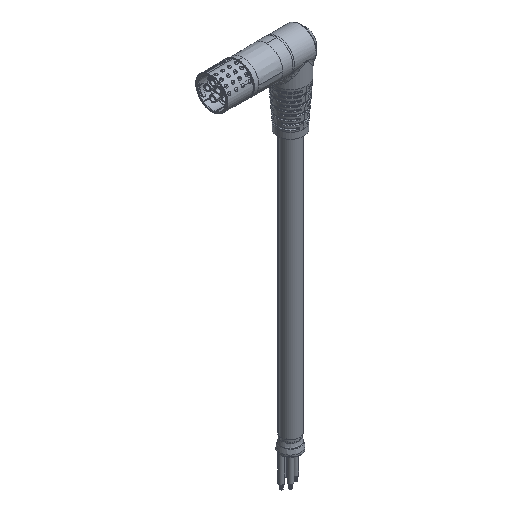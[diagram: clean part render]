
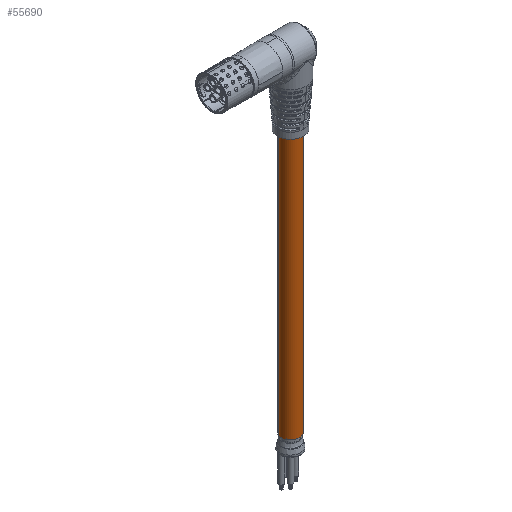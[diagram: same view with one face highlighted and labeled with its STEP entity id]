
A CAD part, isometric view. The second image highlights one B-rep face of the part: STEP entity #55690.
In plain terms, the highlighted cylindrical face has radius 6.06 mm (diameter 12.12 mm), a partial arc.
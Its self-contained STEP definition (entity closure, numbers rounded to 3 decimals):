
#1058 = AXIS2_PLACEMENT_3D ( 'NONE', #19120, #47218, #46767 ) ;
#3039 = FACE_OUTER_BOUND ( 'NONE', #30575, .T. ) ;
#5346 = ORIENTED_EDGE ( 'NONE', *, *, #19314, .T. ) ;
#8868 = DIRECTION ( 'NONE',  ( 0., 0., -1. ) ) ;
#11148 = ORIENTED_EDGE ( 'NONE', *, *, #21567, .F. ) ;
#13949 = CARTESIAN_POINT ( 'NONE',  ( -50.776, 7.922, -34.562 ) ) ;
#15374 = DIRECTION ( 'NONE',  ( 0., 0., -1. ) ) ;
#19120 = CARTESIAN_POINT ( 'NONE',  ( -45.178, 5.601, -17.422 ) ) ;
#19314 = EDGE_CURVE ( 'NONE', #69893, #69079, #37124, .T. ) ;
#20463 = CARTESIAN_POINT ( 'NONE',  ( -39.58, 3.279, -221.325 ) ) ;
#21567 = EDGE_CURVE ( 'NONE', #87808, #69079, #64613, .T. ) ;
#22295 = CARTESIAN_POINT ( 'NONE',  ( -39.58, 3.279, -34.562 ) ) ;
#30575 = EDGE_LOOP ( 'NONE', ( #33023, #5346, #11148, #68216 ) ) ;
#31117 = CYLINDRICAL_SURFACE ( 'NONE', #1058, 6.06 ) ;
#32305 = AXIS2_PLACEMENT_3D ( 'NONE', #58948, #8868, #87184 ) ;
#32390 = CARTESIAN_POINT ( 'NONE',  ( -45.178, 5.601, -34.562 ) ) ;
#33023 = ORIENTED_EDGE ( 'NONE', *, *, #52623, .T. ) ;
#37124 = LINE ( 'NONE', #64263, #86808 ) ;
#39626 = CARTESIAN_POINT ( 'NONE',  ( -50.776, 7.922, -221.325 ) ) ;
#46767 = DIRECTION ( 'NONE',  ( 0.924, -0.383, 0. ) ) ;
#47218 = DIRECTION ( 'NONE',  ( 0., 0., -1. ) ) ;
#50372 = LINE ( 'NONE', #78447, #90724 ) ;
#50424 = VERTEX_POINT ( 'NONE', #22295 ) ;
#51777 = DIRECTION ( 'NONE',  ( -0.924, 0.383, 0. ) ) ;
#52623 = EDGE_CURVE ( 'NONE', #50424, #69893, #56726, .T. ) ;
#53109 = EDGE_CURVE ( 'NONE', #50424, #87808, #50372, .T. ) ;
#55690 = ADVANCED_FACE ( 'NONE', ( #3039 ), #31117, .T. ) ;
#56726 = CIRCLE ( 'NONE', #66963, 6.06 ) ;
#58948 = CARTESIAN_POINT ( 'NONE',  ( -45.178, 5.601, -221.325 ) ) ;
#59984 = DIRECTION ( 'NONE',  ( 0., 0., -1. ) ) ;
#64263 = CARTESIAN_POINT ( 'NONE',  ( -50.776, 7.922, -17.422 ) ) ;
#64613 = CIRCLE ( 'NONE', #32305, 6.06 ) ;
#65178 = DIRECTION ( 'NONE',  ( 0., 0., -1. ) ) ;
#66963 = AXIS2_PLACEMENT_3D ( 'NONE', #32390, #59984, #51777 ) ;
#68216 = ORIENTED_EDGE ( 'NONE', *, *, #53109, .F. ) ;
#69079 = VERTEX_POINT ( 'NONE', #39626 ) ;
#69893 = VERTEX_POINT ( 'NONE', #13949 ) ;
#78447 = CARTESIAN_POINT ( 'NONE',  ( -39.58, 3.279, -17.422 ) ) ;
#86808 = VECTOR ( 'NONE', #65178, 1000. ) ;
#87184 = DIRECTION ( 'NONE',  ( 0.924, -0.383, 0. ) ) ;
#87808 = VERTEX_POINT ( 'NONE', #20463 ) ;
#90724 = VECTOR ( 'NONE', #15374, 1000. ) ;
